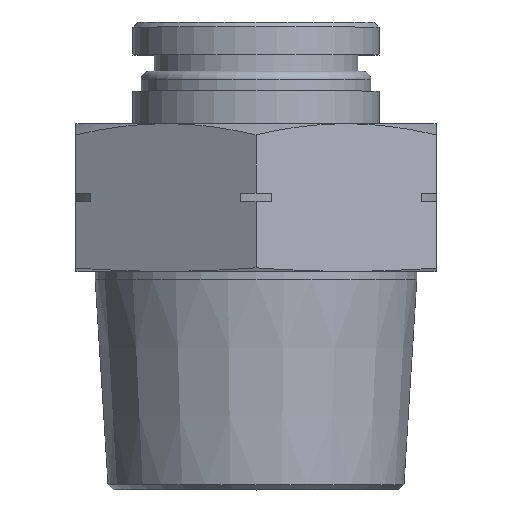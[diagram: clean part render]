
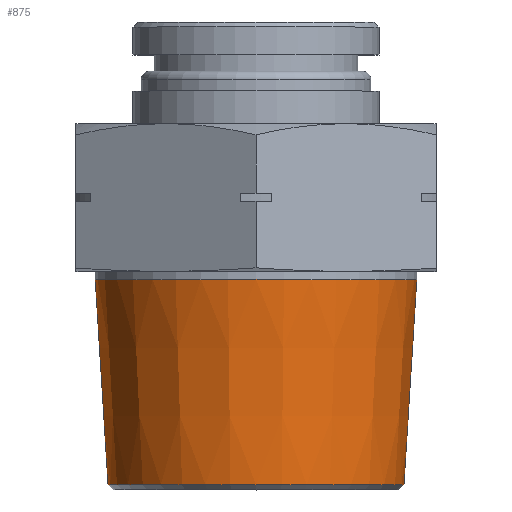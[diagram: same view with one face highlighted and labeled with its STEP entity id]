
A CAD part, top view. The second image highlights one B-rep face of the part: STEP entity #875.
In plain terms, the highlighted conical face has half-angle 3.58 degrees and reference radius 9.4 mm.
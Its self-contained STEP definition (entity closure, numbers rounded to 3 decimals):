
#16=CONICAL_SURFACE('',#978,9.4,0.062);
#104=FACE_OUTER_BOUND('',#162,.T.);
#162=EDGE_LOOP('',(#682,#683,#684,#685,#686));
#216=CIRCLE('',#974,9.019);
#217=CIRCLE('',#975,9.019);
#219=CIRCLE('',#979,9.801);
#286=LINE('',#1473,#344);
#344=VECTOR('',#1184,9.4);
#411=VERTEX_POINT('',#1462);
#412=VERTEX_POINT('',#1463);
#414=VERTEX_POINT('',#1471);
#512=EDGE_CURVE('',#411,#412,#216,.T.);
#513=EDGE_CURVE('',#412,#411,#217,.T.);
#516=EDGE_CURVE('',#414,#414,#219,.T.);
#517=EDGE_CURVE('',#414,#412,#286,.T.);
#682=ORIENTED_EDGE('',*,*,#516,.F.);
#683=ORIENTED_EDGE('',*,*,#517,.T.);
#684=ORIENTED_EDGE('',*,*,#512,.F.);
#685=ORIENTED_EDGE('',*,*,#513,.F.);
#686=ORIENTED_EDGE('',*,*,#517,.F.);
#875=ADVANCED_FACE('',(#104),#16,.T.);
#974=AXIS2_PLACEMENT_3D('',#1464,#1171,#1172);
#975=AXIS2_PLACEMENT_3D('',#1465,#1173,#1174);
#978=AXIS2_PLACEMENT_3D('',#1470,#1180,#1181);
#979=AXIS2_PLACEMENT_3D('',#1472,#1182,#1183);
#1171=DIRECTION('center_axis',(0.,-1.,0.));
#1172=DIRECTION('ref_axis',(-1.,0.,0.));
#1173=DIRECTION('center_axis',(0.,-1.,0.));
#1174=DIRECTION('ref_axis',(-1.,0.,0.));
#1180=DIRECTION('center_axis',(0.,1.,0.));
#1181=DIRECTION('ref_axis',(1.,0.,0.));
#1182=DIRECTION('center_axis',(0.,1.,0.));
#1183=DIRECTION('ref_axis',(1.,0.,0.));
#1184=DIRECTION('',(0.062,-0.998,0.));
#1462=CARTESIAN_POINT('',(9.019,-13.001,0.));
#1463=CARTESIAN_POINT('',(-9.019,-13.001,0.));
#1464=CARTESIAN_POINT('Origin',(0.,-13.001,0.));
#1465=CARTESIAN_POINT('Origin',(0.,-13.001,0.));
#1470=CARTESIAN_POINT('Origin',(0.,-6.9,0.));
#1471=CARTESIAN_POINT('',(-9.801,-0.5,0.));
#1472=CARTESIAN_POINT('Origin',(0.,-0.5,0.));
#1473=CARTESIAN_POINT('',(-9.4,-6.9,0.));
